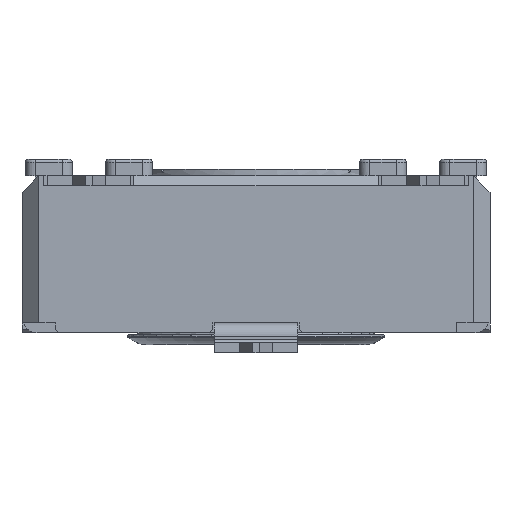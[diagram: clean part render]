
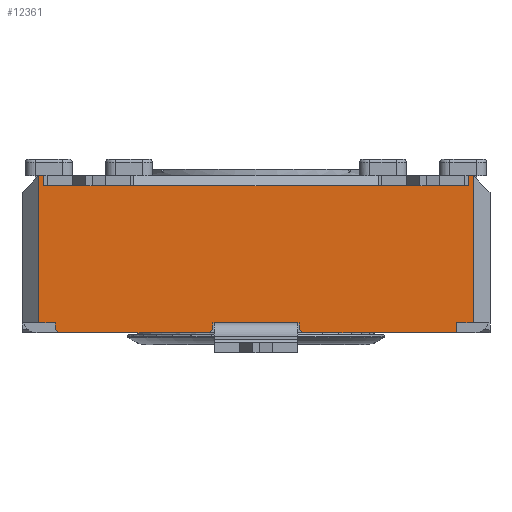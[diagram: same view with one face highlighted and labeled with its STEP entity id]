
A CAD part, front view. The second image highlights one B-rep face of the part: STEP entity #12361.
In plain terms, the highlighted planar face has unit normal (0, -1, 0).
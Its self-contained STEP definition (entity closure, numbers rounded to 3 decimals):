
#642=FACE_OUTER_BOUND('',#1308,.T.);
#1308=EDGE_LOOP('',(#8219,#8220,#8221,#8222,#8223,#8224,#8225,#8226,#8227,
#8228,#8229,#8230,#8231,#8232,#8233,#8234,#8235,#8236,#8237,#8238,#8239,
#8240,#8241,#8242,#8243,#8244,#8245));
#1987=LINE('',#17598,#3453);
#2000=LINE('',#17632,#3466);
#2005=LINE('',#17642,#3471);
#2083=LINE('',#17801,#3549);
#2108=LINE('',#17852,#3574);
#2134=LINE('',#17916,#3600);
#2135=LINE('',#17918,#3601);
#2136=LINE('',#17920,#3602);
#2137=LINE('',#17921,#3603);
#2138=LINE('',#17923,#3604);
#2139=LINE('',#17925,#3605);
#2140=LINE('',#17927,#3606);
#2141=LINE('',#17929,#3607);
#2142=LINE('',#17930,#3608);
#2143=LINE('',#17932,#3609);
#2144=LINE('',#17934,#3610);
#2145=LINE('',#17936,#3611);
#2146=LINE('',#17938,#3612);
#2147=LINE('',#17940,#3613);
#2148=LINE('',#17942,#3614);
#2149=LINE('',#17944,#3615);
#2150=LINE('',#17946,#3616);
#2151=LINE('',#17948,#3617);
#2152=LINE('',#17949,#3618);
#2153=LINE('',#17951,#3619);
#2154=LINE('',#17953,#3620);
#2155=LINE('',#17954,#3621);
#3453=VECTOR('',#14099,10.);
#3466=VECTOR('',#14138,10.);
#3471=VECTOR('',#14143,10.);
#3549=VECTOR('',#14245,10.);
#3574=VECTOR('',#14286,10.);
#3600=VECTOR('',#14334,10.);
#3601=VECTOR('',#14335,10.);
#3602=VECTOR('',#14336,10.);
#3603=VECTOR('',#14337,10.);
#3604=VECTOR('',#14338,10.);
#3605=VECTOR('',#14339,10.);
#3606=VECTOR('',#14340,10.);
#3607=VECTOR('',#14341,10.);
#3608=VECTOR('',#14342,10.);
#3609=VECTOR('',#14343,10.);
#3610=VECTOR('',#14344,10.);
#3611=VECTOR('',#14345,10.);
#3612=VECTOR('',#14346,10.);
#3613=VECTOR('',#14347,10.);
#3614=VECTOR('',#14348,10.);
#3615=VECTOR('',#14349,10.);
#3616=VECTOR('',#14350,10.);
#3617=VECTOR('',#14351,10.);
#3618=VECTOR('',#14352,10.);
#3619=VECTOR('',#14353,10.);
#3620=VECTOR('',#14354,10.);
#3621=VECTOR('',#14355,10.);
#4911=VERTEX_POINT('',#17576);
#4919=VERTEX_POINT('',#17597);
#4927=VERTEX_POINT('',#17631);
#4931=VERTEX_POINT('',#17639);
#4932=VERTEX_POINT('',#17641);
#5000=VERTEX_POINT('',#17798);
#5001=VERTEX_POINT('',#17800);
#5018=VERTEX_POINT('',#17849);
#5019=VERTEX_POINT('',#17851);
#5046=VERTEX_POINT('',#17915);
#5047=VERTEX_POINT('',#17917);
#5048=VERTEX_POINT('',#17919);
#5049=VERTEX_POINT('',#17922);
#5050=VERTEX_POINT('',#17924);
#5051=VERTEX_POINT('',#17926);
#5052=VERTEX_POINT('',#17928);
#5053=VERTEX_POINT('',#17931);
#5054=VERTEX_POINT('',#17933);
#5055=VERTEX_POINT('',#17935);
#5056=VERTEX_POINT('',#17937);
#5057=VERTEX_POINT('',#17939);
#5058=VERTEX_POINT('',#17941);
#5059=VERTEX_POINT('',#17943);
#5060=VERTEX_POINT('',#17945);
#5061=VERTEX_POINT('',#17947);
#5062=VERTEX_POINT('',#17950);
#5063=VERTEX_POINT('',#17952);
#6122=EDGE_CURVE('',#4911,#4919,#1987,.T.);
#6139=EDGE_CURVE('',#4927,#4911,#2000,.T.);
#6144=EDGE_CURVE('',#4932,#4931,#2005,.T.);
#6223=EDGE_CURVE('',#5001,#5000,#2083,.T.);
#6248=EDGE_CURVE('',#5019,#5018,#2108,.T.);
#6280=EDGE_CURVE('',#5000,#5046,#2134,.T.);
#6281=EDGE_CURVE('',#5046,#5047,#2135,.T.);
#6282=EDGE_CURVE('',#5047,#5048,#2136,.T.);
#6283=EDGE_CURVE('',#4932,#5048,#2137,.T.);
#6284=EDGE_CURVE('',#4931,#5049,#2138,.T.);
#6285=EDGE_CURVE('',#5050,#5049,#2139,.T.);
#6286=EDGE_CURVE('',#5050,#5051,#2140,.T.);
#6287=EDGE_CURVE('',#5052,#5051,#2141,.T.);
#6288=EDGE_CURVE('',#4927,#5052,#2142,.T.);
#6289=EDGE_CURVE('',#4919,#5053,#2143,.T.);
#6290=EDGE_CURVE('',#5053,#5054,#2144,.T.);
#6291=EDGE_CURVE('',#5055,#5054,#2145,.T.);
#6292=EDGE_CURVE('',#5055,#5056,#2146,.T.);
#6293=EDGE_CURVE('',#5056,#5057,#2147,.T.);
#6294=EDGE_CURVE('',#5057,#5058,#2148,.T.);
#6295=EDGE_CURVE('',#5059,#5058,#2149,.T.);
#6296=EDGE_CURVE('',#5059,#5060,#2150,.T.);
#6297=EDGE_CURVE('',#5060,#5061,#2151,.T.);
#6298=EDGE_CURVE('',#5061,#5019,#2152,.T.);
#6299=EDGE_CURVE('',#5018,#5062,#2153,.T.);
#6300=EDGE_CURVE('',#5063,#5062,#2154,.T.);
#6301=EDGE_CURVE('',#5063,#5001,#2155,.T.);
#8219=ORIENTED_EDGE('',*,*,#6223,.T.);
#8220=ORIENTED_EDGE('',*,*,#6280,.T.);
#8221=ORIENTED_EDGE('',*,*,#6281,.T.);
#8222=ORIENTED_EDGE('',*,*,#6282,.T.);
#8223=ORIENTED_EDGE('',*,*,#6283,.F.);
#8224=ORIENTED_EDGE('',*,*,#6144,.T.);
#8225=ORIENTED_EDGE('',*,*,#6284,.T.);
#8226=ORIENTED_EDGE('',*,*,#6285,.F.);
#8227=ORIENTED_EDGE('',*,*,#6286,.T.);
#8228=ORIENTED_EDGE('',*,*,#6287,.F.);
#8229=ORIENTED_EDGE('',*,*,#6288,.F.);
#8230=ORIENTED_EDGE('',*,*,#6139,.T.);
#8231=ORIENTED_EDGE('',*,*,#6122,.T.);
#8232=ORIENTED_EDGE('',*,*,#6289,.T.);
#8233=ORIENTED_EDGE('',*,*,#6290,.T.);
#8234=ORIENTED_EDGE('',*,*,#6291,.F.);
#8235=ORIENTED_EDGE('',*,*,#6292,.T.);
#8236=ORIENTED_EDGE('',*,*,#6293,.T.);
#8237=ORIENTED_EDGE('',*,*,#6294,.T.);
#8238=ORIENTED_EDGE('',*,*,#6295,.F.);
#8239=ORIENTED_EDGE('',*,*,#6296,.T.);
#8240=ORIENTED_EDGE('',*,*,#6297,.T.);
#8241=ORIENTED_EDGE('',*,*,#6298,.T.);
#8242=ORIENTED_EDGE('',*,*,#6248,.T.);
#8243=ORIENTED_EDGE('',*,*,#6299,.T.);
#8244=ORIENTED_EDGE('',*,*,#6300,.F.);
#8245=ORIENTED_EDGE('',*,*,#6301,.T.);
#11657=PLANE('',#13066);
#12361=ADVANCED_FACE('',(#642),#11657,.T.);
#13066=AXIS2_PLACEMENT_3D('',#17914,#14332,#14333);
#14099=DIRECTION('',(1.,0.,0.));
#14138=DIRECTION('',(1.,0.,0.));
#14143=DIRECTION('',(1.,0.,0.));
#14245=DIRECTION('',(-1.,0.,0.));
#14286=DIRECTION('',(-1.,0.,0.));
#14332=DIRECTION('center_axis',(0.,-1.,0.));
#14333=DIRECTION('ref_axis',(0.,0.,-1.));
#14334=DIRECTION('',(-1.,0.,0.));
#14335=DIRECTION('',(0.,0.,1.));
#14336=DIRECTION('',(-1.,0.,0.));
#14337=DIRECTION('',(0.,0.,1.));
#14338=DIRECTION('',(0.,0.,-1.));
#14339=DIRECTION('',(-0.707,0.,0.707));
#14340=DIRECTION('',(1.,0.,0.));
#14341=DIRECTION('',(-0.707,0.,-0.707));
#14342=DIRECTION('',(0.,0.,-1.));
#14343=DIRECTION('',(1.,0.,0.));
#14344=DIRECTION('',(0.,0.,-1.));
#14345=DIRECTION('',(-0.707,0.,0.707));
#14346=DIRECTION('',(1.,0.,0.));
#14347=DIRECTION('',(0.,0.,1.));
#14348=DIRECTION('',(1.,0.,0.));
#14349=DIRECTION('',(0.,0.,-1.));
#14350=DIRECTION('',(-1.,0.,0.));
#14351=DIRECTION('',(0.,0.,-1.));
#14352=DIRECTION('',(-1.,0.,0.));
#14353=DIRECTION('',(-1.,0.,0.));
#14354=DIRECTION('',(1.,0.,0.));
#14355=DIRECTION('',(-1.,0.,0.));
#17576=CARTESIAN_POINT('',(-8.717,-9.898,0.));
#17597=CARTESIAN_POINT('',(-6.217,-9.898,0.));
#17598=CARTESIAN_POINT('',(-14.467,-9.898,0.));
#17631=CARTESIAN_POINT('',(-8.767,-9.898,0.));
#17632=CARTESIAN_POINT('',(-14.467,-9.898,0.));
#17639=CARTESIAN_POINT('',(-13.467,-9.898,0.));
#17641=CARTESIAN_POINT('',(-13.967,-9.898,0.));
#17642=CARTESIAN_POINT('',(-7.245,-9.898,0.));
#17798=CARTESIAN_POINT('',(-13.717,-9.898,4.1));
#17800=CARTESIAN_POINT('',(-11.217,-9.898,4.1));
#17801=CARTESIAN_POINT('',(-6.467,-9.898,4.1));
#17849=CARTESIAN_POINT('',(-3.717,-9.898,4.1));
#17851=CARTESIAN_POINT('',(-1.217,-9.898,4.1));
#17852=CARTESIAN_POINT('',(-1.467,-9.898,4.1));
#17914=CARTESIAN_POINT('Origin',(-0.467,-9.898,0.));
#17915=CARTESIAN_POINT('',(-13.817,-9.898,4.1));
#17916=CARTESIAN_POINT('',(-3.944,-9.898,4.1));
#17917=CARTESIAN_POINT('',(-13.817,-9.898,4.4));
#17918=CARTESIAN_POINT('',(-13.817,-9.898,2.2));
#17919=CARTESIAN_POINT('',(-13.967,-9.898,4.4));
#17920=CARTESIAN_POINT('',(-14.467,-9.898,4.4));
#17921=CARTESIAN_POINT('',(-13.967,-9.898,0.));
#17922=CARTESIAN_POINT('',(-13.467,-9.898,-0.2));
#17923=CARTESIAN_POINT('',(-13.467,-9.898,-0.15));
#17924=CARTESIAN_POINT('',(-13.367,-9.898,-0.3));
#17925=CARTESIAN_POINT('',(-10.242,-9.898,-3.425));
#17926=CARTESIAN_POINT('',(-8.867,-9.898,-0.3));
#17927=CARTESIAN_POINT('',(-0.467,-9.898,-0.3));
#17928=CARTESIAN_POINT('',(-8.767,-9.898,-0.2));
#17929=CARTESIAN_POINT('',(-6.667,-9.898,1.9));
#17930=CARTESIAN_POINT('',(-8.767,-9.898,0.));
#17931=CARTESIAN_POINT('',(-6.167,-9.898,0.));
#17932=CARTESIAN_POINT('',(-14.467,-9.898,0.));
#17933=CARTESIAN_POINT('',(-6.167,-9.898,-0.2));
#17934=CARTESIAN_POINT('',(-6.167,-9.898,0.));
#17935=CARTESIAN_POINT('',(-6.067,-9.898,-0.3));
#17936=CARTESIAN_POINT('',(-4.767,-9.898,-1.6));
#17937=CARTESIAN_POINT('',(-1.467,-9.898,-0.3));
#17938=CARTESIAN_POINT('',(-0.467,-9.898,-0.3));
#17939=CARTESIAN_POINT('',(-1.467,-9.898,0.));
#17940=CARTESIAN_POINT('',(-1.467,-9.898,-0.15));
#17941=CARTESIAN_POINT('',(-0.967,-9.898,0.));
#17942=CARTESIAN_POINT('',(-0.646,-9.898,0.));
#17943=CARTESIAN_POINT('',(-0.967,-9.898,4.4));
#17944=CARTESIAN_POINT('',(-0.967,-9.898,0.));
#17945=CARTESIAN_POINT('',(-1.117,-9.898,4.4));
#17946=CARTESIAN_POINT('',(-14.467,-9.898,4.4));
#17947=CARTESIAN_POINT('',(-1.117,-9.898,4.1));
#17948=CARTESIAN_POINT('',(-1.117,-9.898,2.2));
#17949=CARTESIAN_POINT('',(-1.862,-9.898,4.1));
#17950=CARTESIAN_POINT('',(-3.817,-9.898,4.1));
#17951=CARTESIAN_POINT('',(-1.862,-9.898,4.1));
#17952=CARTESIAN_POINT('',(-11.117,-9.898,4.1));
#17953=CARTESIAN_POINT('',(-3.967,-9.898,4.1));
#17954=CARTESIAN_POINT('',(-3.944,-9.898,4.1));
